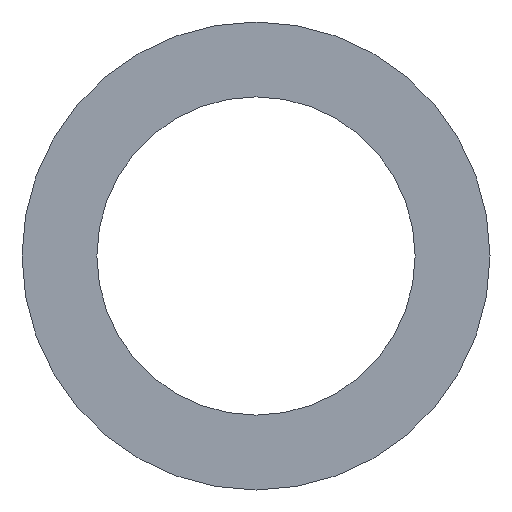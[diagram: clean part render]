
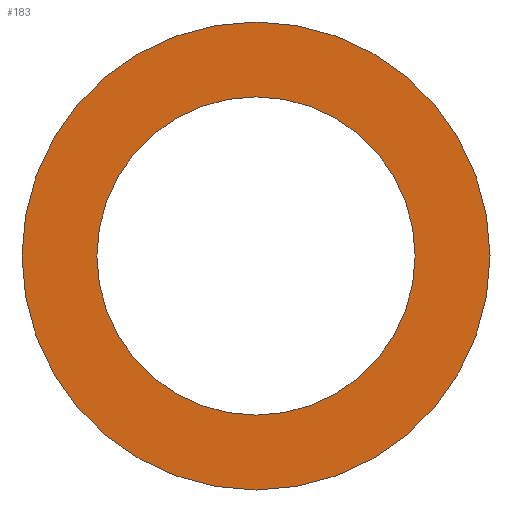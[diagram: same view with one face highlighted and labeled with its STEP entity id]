
A CAD part, left-side view. The second image highlights one B-rep face of the part: STEP entity #183.
In plain terms, the highlighted planar face has unit normal (-1, 0, 0).
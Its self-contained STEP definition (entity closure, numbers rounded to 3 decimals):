
#22 = VERTEX_POINT('',#23);
#23 = CARTESIAN_POINT('',(26.5,11.,0.));
#32 = CYLINDRICAL_SURFACE('',#33,11.);
#33 = AXIS2_PLACEMENT_3D('',#34,#35,#36);
#34 = CARTESIAN_POINT('',(26.5,0.,0.));
#35 = DIRECTION('',(-1.,-0.,-0.));
#36 = DIRECTION('',(0.,1.,0.));
#79 = EDGE_CURVE('',#22,#22,#80,.T.);
#80 = SURFACE_CURVE('',#81,(#86,#93),.PCURVE_S1.);
#81 = CIRCLE('',#82,11.);
#82 = AXIS2_PLACEMENT_3D('',#83,#84,#85);
#83 = CARTESIAN_POINT('',(26.5,0.,0.));
#84 = DIRECTION('',(1.,0.,0.));
#85 = DIRECTION('',(0.,1.,0.));
#86 = PCURVE('',#32,#87);
#87 = DEFINITIONAL_REPRESENTATION('',(#88),#92);
#88 = LINE('',#89,#90);
#89 = CARTESIAN_POINT('',(-0.,0.));
#90 = VECTOR('',#91,1.);
#91 = DIRECTION('',(-1.,0.));
#92 = ( GEOMETRIC_REPRESENTATION_CONTEXT(2) 
PARAMETRIC_REPRESENTATION_CONTEXT() REPRESENTATION_CONTEXT('2D SPACE',''
  ) );
#93 = PCURVE('',#94,#99);
#94 = PLANE('',#95);
#95 = AXIS2_PLACEMENT_3D('',#96,#97,#98);
#96 = CARTESIAN_POINT('',(26.5,0.,0.)
  );
#97 = DIRECTION('',(1.,0.,0.));
#98 = DIRECTION('',(-0.,0.,1.));
#99 = DEFINITIONAL_REPRESENTATION('',(#100),#104);
#100 = CIRCLE('',#101,11.);
#101 = AXIS2_PLACEMENT_2D('',#102,#103);
#102 = CARTESIAN_POINT('',(0.,0.));
#103 = DIRECTION('',(0.,-1.));
#104 = ( GEOMETRIC_REPRESENTATION_CONTEXT(2) 
PARAMETRIC_REPRESENTATION_CONTEXT() REPRESENTATION_CONTEXT('2D SPACE',''
  ) );
#110 = VERTEX_POINT('',#111);
#111 = CARTESIAN_POINT('',(26.5,7.48,0.));
#120 = CYLINDRICAL_SURFACE('',#121,7.48);
#121 = AXIS2_PLACEMENT_3D('',#122,#123,#124);
#122 = CARTESIAN_POINT('',(26.5,0.,0.));
#123 = DIRECTION('',(-1.,-0.,-0.));
#124 = DIRECTION('',(0.,1.,0.));
#162 = EDGE_CURVE('',#110,#110,#163,.T.);
#163 = SURFACE_CURVE('',#164,(#169,#176),.PCURVE_S1.);
#164 = CIRCLE('',#165,7.48);
#165 = AXIS2_PLACEMENT_3D('',#166,#167,#168);
#166 = CARTESIAN_POINT('',(26.5,0.,0.));
#167 = DIRECTION('',(1.,0.,0.));
#168 = DIRECTION('',(0.,1.,0.));
#169 = PCURVE('',#120,#170);
#170 = DEFINITIONAL_REPRESENTATION('',(#171),#175);
#171 = LINE('',#172,#173);
#172 = CARTESIAN_POINT('',(-0.,0.));
#173 = VECTOR('',#174,1.);
#174 = DIRECTION('',(-1.,0.));
#175 = ( GEOMETRIC_REPRESENTATION_CONTEXT(2) 
PARAMETRIC_REPRESENTATION_CONTEXT() REPRESENTATION_CONTEXT('2D SPACE',''
  ) );
#176 = PCURVE('',#94,#177);
#177 = DEFINITIONAL_REPRESENTATION('',(#178),#182);
#178 = CIRCLE('',#179,7.48);
#179 = AXIS2_PLACEMENT_2D('',#180,#181);
#180 = CARTESIAN_POINT('',(0.,0.));
#181 = DIRECTION('',(0.,-1.));
#182 = ( GEOMETRIC_REPRESENTATION_CONTEXT(2) 
PARAMETRIC_REPRESENTATION_CONTEXT() REPRESENTATION_CONTEXT('2D SPACE',''
  ) );
#183 = ADVANCED_FACE('',(#184,#187),#94,.F.);
#184 = FACE_BOUND('',#185,.F.);
#185 = EDGE_LOOP('',(#186));
#186 = ORIENTED_EDGE('',*,*,#79,.T.);
#187 = FACE_BOUND('',#188,.F.);
#188 = EDGE_LOOP('',(#189));
#189 = ORIENTED_EDGE('',*,*,#162,.F.);
